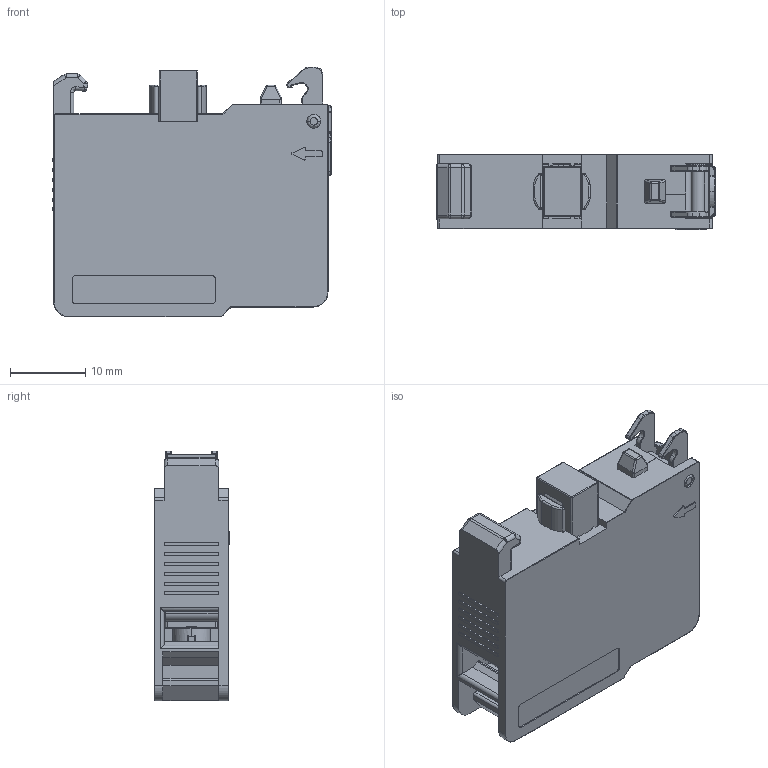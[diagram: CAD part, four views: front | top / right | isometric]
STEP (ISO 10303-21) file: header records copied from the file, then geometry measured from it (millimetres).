
FILE_DESCRIPTION (( 'STEP AP203' ), '1' );
FILE_NAME ('LB22SA2-NO.STEP', '2025-03-13T08:39:22', ( '微软用户' ), ( '微软中国' ), 'SwSTEP 2.0', 'SolidWorks 2022', '' );
FILE_SCHEMA (( 'CONFIG_CONTROL_DESIGN' ));
Products named in the file (1): LB22SA2-NO
Bounding box: 37.2 x 10.05 x 33.2 mm (x, y, z)
Volume: 5792.8 mm3; surface area: 9606.1 mm2
Topology: 1 solids, 9 shells, 1601 faces, 4316 edges, 2716 vertices
Faces by surface type: plane 817, cylinder 436, bspline 318, cone 27, sphere 2, torus 1
Entity records: 55886 total; most frequent: CARTESIAN_POINT 18013, ORIENTED_EDGE 8616, DIRECTION 6900, EDGE_CURVE 4308, VERTEX_POINT 2716, VECTOR 2594, LINE 2594, AXIS2_PLACEMENT_3D 2153
